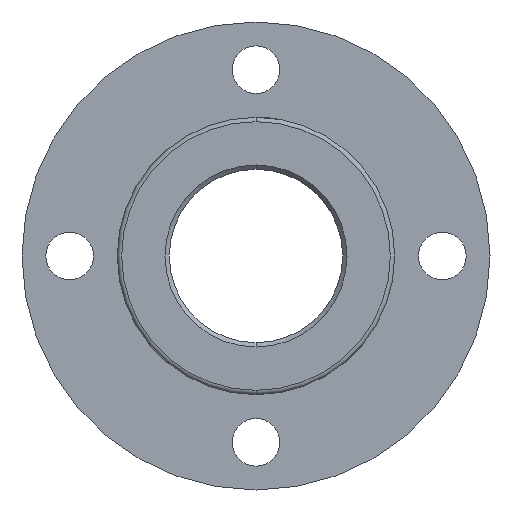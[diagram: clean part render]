
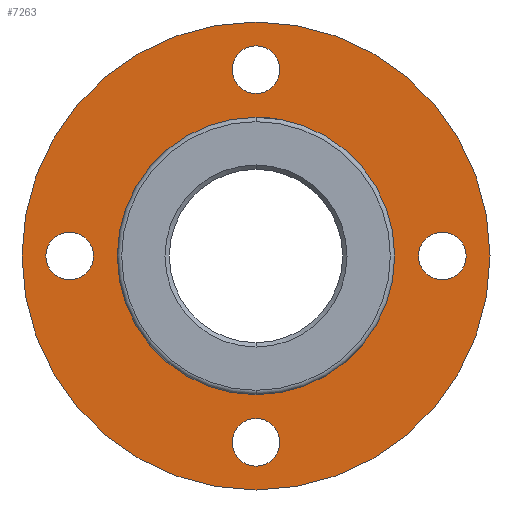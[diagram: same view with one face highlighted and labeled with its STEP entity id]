
A CAD part, front view. The second image highlights one B-rep face of the part: STEP entity #7263.
In plain terms, the highlighted planar face has unit normal (0, -1, 0).
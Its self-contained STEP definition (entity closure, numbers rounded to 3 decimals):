
#18 = DIRECTION ( 'NONE',  ( 0., 0., 1. ) ) ;
#146 = CARTESIAN_POINT ( 'NONE',  ( 0., 0., -21.5 ) ) ;
#355 = EDGE_CURVE ( 'NONE', #867, #3859, #5279, .T. ) ;
#392 = EDGE_CURVE ( 'NONE', #7276, #2995, #1700, .T. ) ;
#441 = FACE_OUTER_BOUND ( 'NONE', #6799, .T. ) ;
#508 = VERTEX_POINT ( 'NONE', #3113 ) ;
#542 = DIRECTION ( 'NONE',  ( 0., 0., 1. ) ) ;
#553 = ORIENTED_EDGE ( 'NONE', *, *, #7177, .T. ) ;
#559 = DIRECTION ( 'NONE',  ( 0., 1., 0. ) ) ;
#563 = CARTESIAN_POINT ( 'NONE',  ( 0., 0., 0. ) ) ;
#579 = DIRECTION ( 'NONE',  ( 0., 0., 1. ) ) ;
#733 = DIRECTION ( 'NONE',  ( 0., 0., 1. ) ) ;
#757 = ORIENTED_EDGE ( 'NONE', *, *, #6605, .T. ) ;
#850 = CARTESIAN_POINT ( 'NONE',  ( 21.5, 0., 2.75 ) ) ;
#865 = CIRCLE ( 'NONE', #1285, 2.75 ) ;
#867 = VERTEX_POINT ( 'NONE', #6951 ) ;
#878 = AXIS2_PLACEMENT_3D ( 'NONE', #5677, #2869, #5128 ) ;
#942 = AXIS2_PLACEMENT_3D ( 'NONE', #3942, #1681, #579 ) ;
#964 = VERTEX_POINT ( 'NONE', #6405 ) ;
#1012 = DIRECTION ( 'NONE',  ( 0., 1., 0. ) ) ;
#1015 = CARTESIAN_POINT ( 'NONE',  ( 0., 0., 0. ) ) ;
#1068 = CIRCLE ( 'NONE', #1185, 2.75 ) ;
#1182 = CARTESIAN_POINT ( 'NONE',  ( -21.5, 0., 0. ) ) ;
#1185 = AXIS2_PLACEMENT_3D ( 'NONE', #2161, #3837, #5537 ) ;
#1248 = ORIENTED_EDGE ( 'NONE', *, *, #4785, .T. ) ;
#1263 = VERTEX_POINT ( 'NONE', #850 ) ;
#1285 = AXIS2_PLACEMENT_3D ( 'NONE', #5909, #7095, #2614 ) ;
#1339 = PLANE ( 'NONE',  #4379 ) ;
#1574 = AXIS2_PLACEMENT_3D ( 'NONE', #6735, #559, #18 ) ;
#1598 = DIRECTION ( 'NONE',  ( 0., 1., 0. ) ) ;
#1609 = CIRCLE ( 'NONE', #4000, 2.75 ) ;
#1643 = EDGE_CURVE ( 'NONE', #4862, #7129, #1793, .T. ) ;
#1681 = DIRECTION ( 'NONE',  ( 0., 1., 0. ) ) ;
#1700 = CIRCLE ( 'NONE', #4455, 16. ) ;
#1761 = DIRECTION ( 'NONE',  ( 0., 1., 0. ) ) ;
#1793 = CIRCLE ( 'NONE', #5719, 2.75 ) ;
#1958 = FACE_BOUND ( 'NONE', #6771, .T. ) ;
#1962 = CIRCLE ( 'NONE', #942, 27. ) ;
#2134 = CARTESIAN_POINT ( 'NONE',  ( 0., 0., -21.5 ) ) ;
#2161 = CARTESIAN_POINT ( 'NONE',  ( 21.5, 0., 0. ) ) ;
#2174 = VERTEX_POINT ( 'NONE', #5469 ) ;
#2204 = DIRECTION ( 'NONE',  ( 0., 0., 1. ) ) ;
#2303 = FACE_BOUND ( 'NONE', #6439, .T. ) ;
#2375 = DIRECTION ( 'NONE',  ( 0., 0., 1. ) ) ;
#2386 = DIRECTION ( 'NONE',  ( 0., 1., 0. ) ) ;
#2430 = CARTESIAN_POINT ( 'NONE',  ( 0., 0., 0. ) ) ;
#2557 = ORIENTED_EDGE ( 'NONE', *, *, #5528, .F. ) ;
#2612 = CARTESIAN_POINT ( 'NONE',  ( -21.5, 0., 2.75 ) ) ;
#2614 = DIRECTION ( 'NONE',  ( 0., 0., 1. ) ) ;
#2869 = DIRECTION ( 'NONE',  ( 0., 1., 0. ) ) ;
#2923 = ORIENTED_EDGE ( 'NONE', *, *, #5609, .T. ) ;
#2995 = VERTEX_POINT ( 'NONE', #6939 ) ;
#3072 = EDGE_LOOP ( 'NONE', ( #2923, #5661 ) ) ;
#3113 = CARTESIAN_POINT ( 'NONE',  ( 0., 0., 18.75 ) ) ;
#3136 = EDGE_CURVE ( 'NONE', #3859, #867, #7135, .T. ) ;
#3188 = DIRECTION ( 'NONE',  ( 0., 0., 1. ) ) ;
#3478 = EDGE_LOOP ( 'NONE', ( #5361, #7105 ) ) ;
#3565 = ORIENTED_EDGE ( 'NONE', *, *, #1643, .T. ) ;
#3616 = ORIENTED_EDGE ( 'NONE', *, *, #4268, .F. ) ;
#3771 = CIRCLE ( 'NONE', #1574, 2.75 ) ;
#3837 = DIRECTION ( 'NONE',  ( 0., 1., 0. ) ) ;
#3859 = VERTEX_POINT ( 'NONE', #7122 ) ;
#3865 = CARTESIAN_POINT ( 'NONE',  ( -21.5, 0., -2.75 ) ) ;
#3942 = CARTESIAN_POINT ( 'NONE',  ( 0., 0., 0. ) ) ;
#3983 = ORIENTED_EDGE ( 'NONE', *, *, #4025, .T. ) ;
#4000 = AXIS2_PLACEMENT_3D ( 'NONE', #7093, #1012, #4900 ) ;
#4025 = EDGE_CURVE ( 'NONE', #1263, #2174, #1068, .T. ) ;
#4079 = DIRECTION ( 'NONE',  ( 0., 1., 0. ) ) ;
#4268 = EDGE_CURVE ( 'NONE', #4993, #4339, #1962, .T. ) ;
#4339 = VERTEX_POINT ( 'NONE', #4606 ) ;
#4346 = AXIS2_PLACEMENT_3D ( 'NONE', #5418, #6060, #7157 ) ;
#4379 = AXIS2_PLACEMENT_3D ( 'NONE', #2430, #2386, #6914 ) ;
#4410 = CIRCLE ( 'NONE', #878, 2.75 ) ;
#4455 = AXIS2_PLACEMENT_3D ( 'NONE', #1015, #1598, #2204 ) ;
#4503 = DIRECTION ( 'NONE',  ( 0., 1., 0. ) ) ;
#4606 = CARTESIAN_POINT ( 'NONE',  ( 0., 0., 27. ) ) ;
#4756 = AXIS2_PLACEMENT_3D ( 'NONE', #146, #4079, #733 ) ;
#4785 = EDGE_CURVE ( 'NONE', #964, #508, #3771, .T. ) ;
#4862 = VERTEX_POINT ( 'NONE', #3865 ) ;
#4900 = DIRECTION ( 'NONE',  ( 0., 0., 1. ) ) ;
#4993 = VERTEX_POINT ( 'NONE', #5649 ) ;
#5128 = DIRECTION ( 'NONE',  ( 0., 0., 1. ) ) ;
#5140 = EDGE_CURVE ( 'NONE', #508, #964, #865, .T. ) ;
#5267 = CIRCLE ( 'NONE', #4346, 27. ) ;
#5279 = CIRCLE ( 'NONE', #6323, 2.75 ) ;
#5361 = ORIENTED_EDGE ( 'NONE', *, *, #355, .T. ) ;
#5418 = CARTESIAN_POINT ( 'NONE',  ( 0., 0., 0. ) ) ;
#5469 = CARTESIAN_POINT ( 'NONE',  ( 21.5, 0., -2.75 ) ) ;
#5528 = EDGE_CURVE ( 'NONE', #4339, #4993, #5267, .T. ) ;
#5537 = DIRECTION ( 'NONE',  ( 0., 0., 1. ) ) ;
#5609 = EDGE_CURVE ( 'NONE', #2995, #7276, #6410, .T. ) ;
#5649 = CARTESIAN_POINT ( 'NONE',  ( 0., 0., -27. ) ) ;
#5661 = ORIENTED_EDGE ( 'NONE', *, *, #392, .T. ) ;
#5677 = CARTESIAN_POINT ( 'NONE',  ( -21.5, 0., 0. ) ) ;
#5719 = AXIS2_PLACEMENT_3D ( 'NONE', #1182, #1761, #2375 ) ;
#5838 = AXIS2_PLACEMENT_3D ( 'NONE', #563, #4503, #542 ) ;
#5909 = CARTESIAN_POINT ( 'NONE',  ( 0., 0., 21.5 ) ) ;
#6060 = DIRECTION ( 'NONE',  ( 0., 1., 0. ) ) ;
#6126 = EDGE_LOOP ( 'NONE', ( #3983, #553 ) ) ;
#6172 = FACE_BOUND ( 'NONE', #6126, .T. ) ;
#6323 = AXIS2_PLACEMENT_3D ( 'NONE', #2134, #7117, #3188 ) ;
#6405 = CARTESIAN_POINT ( 'NONE',  ( 0., 0., 24.25 ) ) ;
#6410 = CIRCLE ( 'NONE', #5838, 16. ) ;
#6427 = FACE_BOUND ( 'NONE', #3072, .T. ) ;
#6439 = EDGE_LOOP ( 'NONE', ( #1248, #7244 ) ) ;
#6605 = EDGE_CURVE ( 'NONE', #7129, #4862, #4410, .T. ) ;
#6735 = CARTESIAN_POINT ( 'NONE',  ( 0., 0., 21.5 ) ) ;
#6771 = EDGE_LOOP ( 'NONE', ( #757, #3565 ) ) ;
#6792 = FACE_BOUND ( 'NONE', #3478, .T. ) ;
#6799 = EDGE_LOOP ( 'NONE', ( #3616, #2557 ) ) ;
#6914 = DIRECTION ( 'NONE',  ( 0., 0., 1. ) ) ;
#6939 = CARTESIAN_POINT ( 'NONE',  ( 0., 0., 16. ) ) ;
#6951 = CARTESIAN_POINT ( 'NONE',  ( 0., 0., -18.75 ) ) ;
#6991 = CARTESIAN_POINT ( 'NONE',  ( 0., 0., -16. ) ) ;
#7093 = CARTESIAN_POINT ( 'NONE',  ( 21.5, 0., 0. ) ) ;
#7095 = DIRECTION ( 'NONE',  ( 0., 1., 0. ) ) ;
#7105 = ORIENTED_EDGE ( 'NONE', *, *, #3136, .T. ) ;
#7117 = DIRECTION ( 'NONE',  ( 0., 1., 0. ) ) ;
#7122 = CARTESIAN_POINT ( 'NONE',  ( 0., 0., -24.25 ) ) ;
#7129 = VERTEX_POINT ( 'NONE', #2612 ) ;
#7135 = CIRCLE ( 'NONE', #4756, 2.75 ) ;
#7157 = DIRECTION ( 'NONE',  ( 0., 0., 1. ) ) ;
#7177 = EDGE_CURVE ( 'NONE', #2174, #1263, #1609, .T. ) ;
#7244 = ORIENTED_EDGE ( 'NONE', *, *, #5140, .T. ) ;
#7263 = ADVANCED_FACE ( 'NONE', ( #6427, #6792, #6172, #2303, #1958, #441 ), #1339, .F. ) ;
#7276 = VERTEX_POINT ( 'NONE', #6991 ) ;
